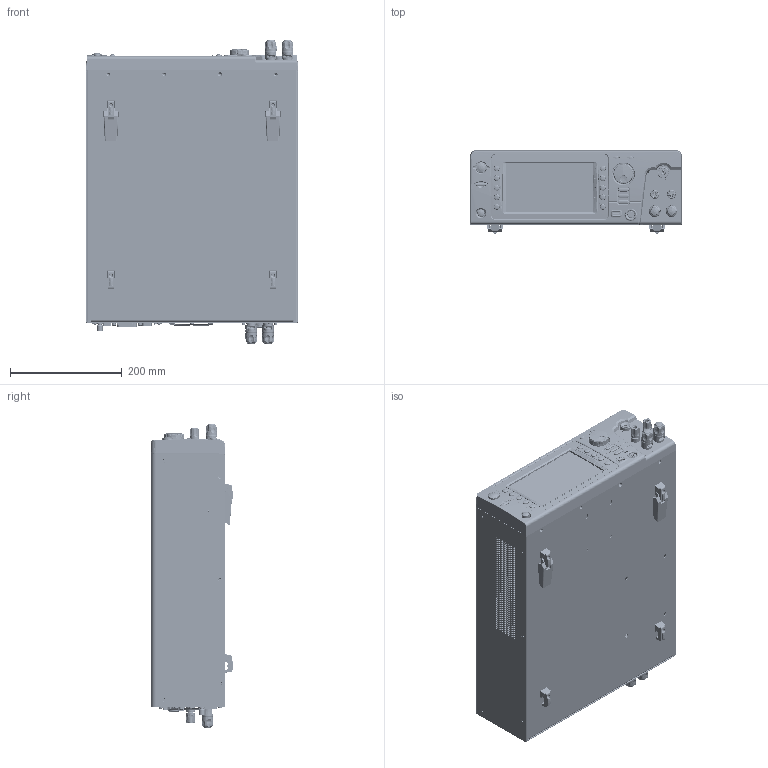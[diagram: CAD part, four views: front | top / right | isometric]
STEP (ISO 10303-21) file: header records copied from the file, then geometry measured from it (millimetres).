
FILE_DESCRIPTION((''),'2;1');
FILE_NAME('GPT-15004-500VA-C_ASM','2020-09-16T15:13:19',('mike_lee'),(''),'CREO PARAMETRIC BY PTC INC, 2019080','CREO PARAMETRIC BY PTC INC, 2019080','');
FILE_SCHEMA(('CONFIG_CONTROL_DESIGN'));
Products named in the file (133): GPT10K_F_ASM_SKEL; 3171-15400201-VTO70E-KN07-I01; 62PT-10KHP501; 57RG-20B05801; 57RG-20B05901; GPT10K_LCD7_ASM_ASM; GPT10K_F_PCB; REMOTE_SOCKET_YE0506; USB-V; ENCODE_SW-R126EC-D1-25; SS-01GL; LED-RIGHT; BL112-50RU; CTT-1137; 3112-06T10101; GPT10K_F_PCB_ASM_ASM; 63FP-SG102901; INSERT-CU; 63FP-SG102901_ASM; 57RB-40G14301; 57RB-40G14401; 57RB-40G14501; 5005-350G0101; 63TS-OG100201; 44BJ-K0100701; NUT-M6; NEW_HVOUT_PNP_ASM; 5002-180R0101; 5052-240N0101; 5004-130G010; 63LB-BF100701; NEW-45A-TERMINAL_ASM_SKEL0001; 63TS-XG100201; 63TS-XG100201-CU; 63TS-XG100201_ASM; 63TS-XG100301; 63TS-XG100401; 63TS-XG100401-CU; 63TS-XG100401_ASM; 63TS-AR100101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
Assembly tree (272 placements, depth 6):
  GPT-15004-500VA-C_ASM
    GPT10K_F_ASM_ASM
      GPT10K_F_ASM_SKEL
      GPT10K_F_ASM-E_ASM
        GPT10K_F_PCB_ASM_ASM
          GPT10K_LCD7_ASM_ASM
            3171-15400201-VTO70E-KN07-I01
            62PT-10KHP501
            57RG-20B05801  x2
            57RG-20B05901  x2
          GPT10K_F_PCB
          REMOTE_SOCKET_YE0506
          USB-V
          ENCODE_SW-R126EC-D1-25
          SS-01GL  x2
          LED-RIGHT  x5
          BL112-50RU
          CTT-1137  x13
          3112-06T10101  x6
        63FP-SG102901_ASM
          63FP-SG102901
          INSERT-CU  x17
        57RB-40G14301
        57RB-40G14401
        57RB-40G14501
        5005-350G0101
        NEW_HVOUT_PNP_ASM
          63TS-OG100201
          44BJ-K0100701
          NUT-M6  x2
        5002-180R0101
        5052-240N0101
        5004-130G010
        63LB-BF100701  x2
        NEW-45A-TERMINAL_ASM_ASM  x2
          NEW-45A-TERMINAL_ASM_SKEL0001
          63TS-XG100201_ASM
            63TS-XG100201
            63TS-XG100201-CU
          63TS-XG100301
          63TS-XG100401_ASM
            63TS-XG100401
            63TS-XG100401-CU
          63TS-AR100101
          61PF-052140N1-5-14-1T
          6001-CN0050J1
          61PF-052100N1-5-10-1T
          SPRING-WASHER-T1
        GPT10K_TERMINAL_ASM_ASM
          63TS-NB100301_ASM
            GPT10K_TERM_SET_HP
            GPT10K_TERM_SET
          63SC-XF100701
          63TS-XG100101_ASM
            63TS-XG100101
            63TS-XG100101-HP
          63TS-NB100201
          NUT-M6  x2
          WASHER-FLAT-6MM  x2
          51EL-31110201
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Bounding box: 380 x 148.34 x 545.51 mm (x, y, z)
Volume: 1331651.8 mm3; surface area: 1826505.1 mm2
Topology: 302 solids, 302 shells, 17897 faces, 45416 edges, 28946 vertices
Faces by surface type: plane 8648, cylinder 5102, cone 1936, bspline 974, torus 640, extrusion 320, sphere 267, revolution 10
Entity records: 444655 total; most frequent: CARTESIAN_POINT 166527, ORIENTED_EDGE 57724, DIRECTION 55835, EDGE_CURVE 28862, AXIS2_PLACEMENT_3D 19509, VERTEX_POINT 18488, VECTOR 16813, LINE 16623
